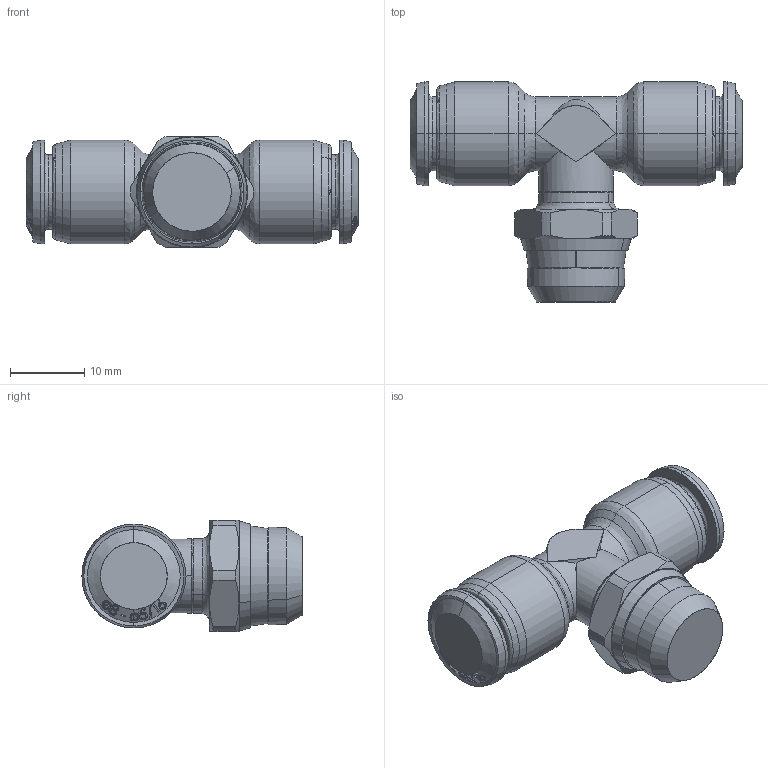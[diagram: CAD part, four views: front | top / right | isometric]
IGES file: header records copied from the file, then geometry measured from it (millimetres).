
Start section: SolidWorks IGES file using analytic representation for surfaces
Global section: file name: C:\Users\Cad01\Desktop\assiemi alfa\85210\8521100009A.igs; native system: SolidWorks 2012; preprocessor: SolidWorks 2012; author: Cad01; date: 121031.152241; units: millimetre
Bounding box: 44.8 x 29.7 x 15.06 mm (x, y, z)
Surface area: 3210.3 mm2 (no closed solid volume)
Topology: 0 solids, 0 shells, 350 faces, 3590 edges, 3590 vertices
Faces by surface type: bspline 241, revolution 109
